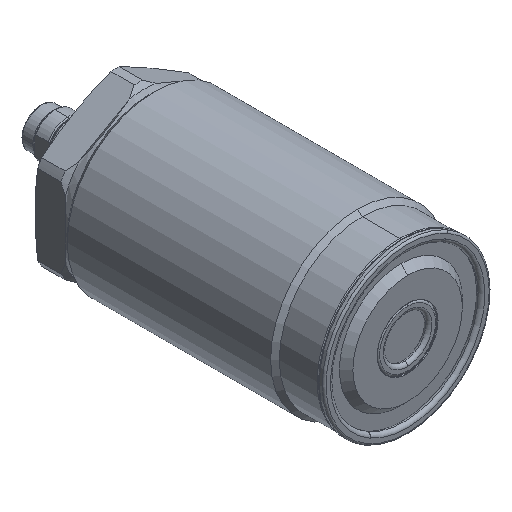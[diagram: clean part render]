
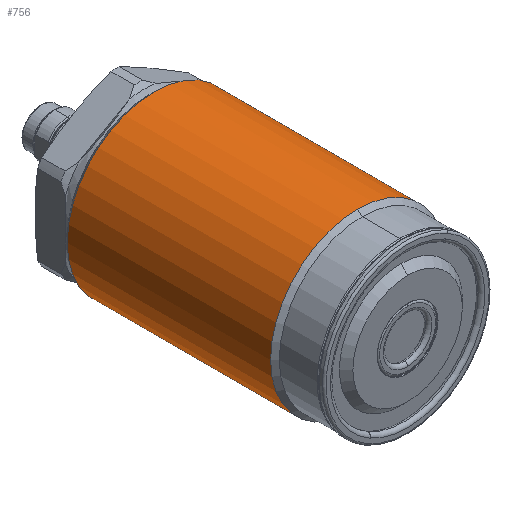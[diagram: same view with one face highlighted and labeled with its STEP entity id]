
A CAD part, isometric view. The second image highlights one B-rep face of the part: STEP entity #756.
In plain terms, the highlighted cylindrical face has radius 18 mm (diameter 36 mm), a full revolution.
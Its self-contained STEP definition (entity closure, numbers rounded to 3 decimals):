
#372=FACE_BOUND('',#1157,.T.);
#373=FACE_BOUND('',#1158,.T.);
#427=CYLINDRICAL_SURFACE('',#3188,18.);
#501=LINE('',#4823,#622);
#502=LINE('',#4828,#623);
#622=VECTOR('',#3777,1.);
#623=VECTOR('',#3780,1.);
#756=ADVANCED_FACE('',(#372,#373),#427,.T.);
#1157=EDGE_LOOP('',(#1522));
#1158=EDGE_LOOP('',(#1523,#1524,#1525,#1526,#1527,#1528));
#1522=ORIENTED_EDGE('',*,*,#2530,.T.);
#1523=ORIENTED_EDGE('',*,*,#2531,.T.);
#1524=ORIENTED_EDGE('',*,*,#2531,.F.);
#1525=ORIENTED_EDGE('',*,*,#2532,.T.);
#1526=ORIENTED_EDGE('',*,*,#2533,.T.);
#1527=ORIENTED_EDGE('',*,*,#2533,.F.);
#1528=ORIENTED_EDGE('',*,*,#2534,.T.);
#2238=VERTEX_POINT('',#4822);
#2239=VERTEX_POINT('',#4824);
#2240=VERTEX_POINT('',#4825);
#2241=VERTEX_POINT('',#4827);
#2242=VERTEX_POINT('',#4829);
#2530=EDGE_CURVE('',#2238,#2238,#2898,.T.);
#2531=EDGE_CURVE('',#2239,#2240,#501,.T.);
#2532=EDGE_CURVE('',#2239,#2241,#2899,.T.);
#2533=EDGE_CURVE('',#2241,#2242,#502,.T.);
#2534=EDGE_CURVE('',#2241,#2239,#2900,.T.);
#2898=CIRCLE('',#3185,18.);
#2899=CIRCLE('',#3186,18.);
#2900=CIRCLE('',#3187,18.);
#3185=AXIS2_PLACEMENT_3D('',#4821,#3775,#3776);
#3186=AXIS2_PLACEMENT_3D('',#4826,#3778,#3779);
#3187=AXIS2_PLACEMENT_3D('',#4830,#3781,#3782);
#3188=AXIS2_PLACEMENT_3D('',#4831,#3783,#3784);
#3775=DIRECTION('',(0.,-1.,0.));
#3776=DIRECTION('',(0.,0.,1.));
#3777=DIRECTION('',(0.,1.,0.));
#3778=DIRECTION('',(0.,1.,0.));
#3779=DIRECTION('',(0.,0.,1.));
#3780=DIRECTION('',(0.,1.,0.));
#3781=DIRECTION('',(0.,1.,0.));
#3782=DIRECTION('',(0.,0.,1.));
#3783=DIRECTION('',(0.,1.,0.));
#3784=DIRECTION('',(0.,0.,-1.));
#4821=CARTESIAN_POINT('',(0.,52.3,0.));
#4822=CARTESIAN_POINT('',(0.,52.3,18.));
#4823=CARTESIAN_POINT('',(0.,64.3,18.));
#4824=CARTESIAN_POINT('',(0.,10.3,18.));
#4825=CARTESIAN_POINT('',(0.,48.881,18.));
#4826=CARTESIAN_POINT('',(0.,10.3,0.));
#4827=CARTESIAN_POINT('',(0.,10.3,-18.));
#4828=CARTESIAN_POINT('',(0.,64.3,-18.));
#4829=CARTESIAN_POINT('',(0.,48.881,-18.));
#4830=CARTESIAN_POINT('',(0.,10.3,0.));
#4831=CARTESIAN_POINT('',(0.,64.3,0.));
